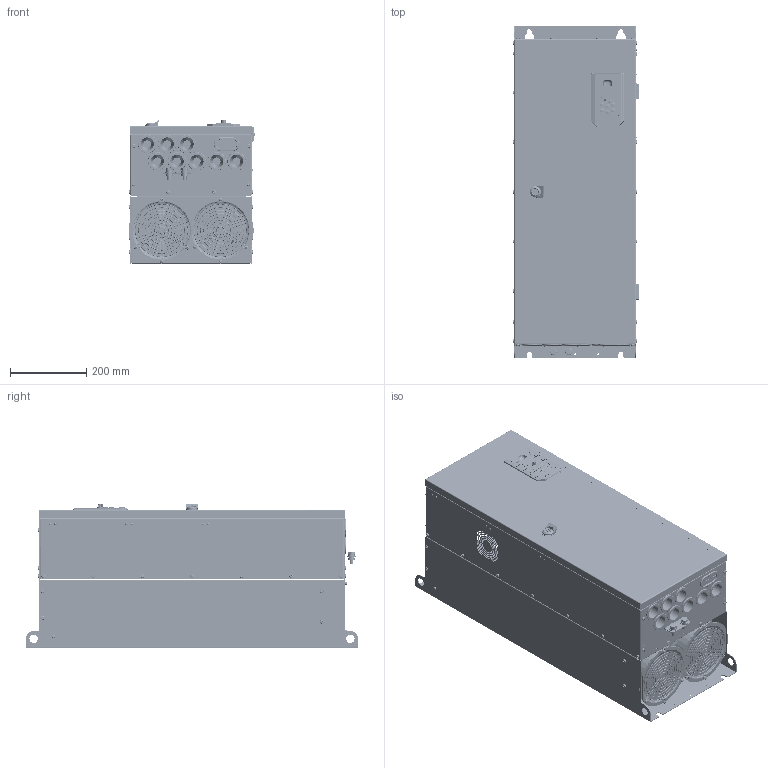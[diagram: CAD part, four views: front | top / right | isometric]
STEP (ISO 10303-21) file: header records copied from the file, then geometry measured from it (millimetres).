
FILE_DESCRIPTION((''),'2;1');
FILE_NAME('AD800-D7-DRIVE_ASM','2025-06-25T11:43:27',('wendong.luo'),(''),'CREO PARAMETRIC BY PTC INC, 2024374','CREO PARAMETRIC BY PTC INC, 2024374','');
FILE_SCHEMA(('CONFIG_CONTROL_DESIGN','GEOMETRIC_VALIDATION_PROPERTIES_MIM'));
Products named in the file (76): D7-MECHANICAL-PART; M0202034; RIVETING-NUT-4_; P_FHS_5_12_; M0202002; M3-SPRING_FLAT; M3-WASHER; M0202002_ASM; M0202007; M0100015; M0202003; M10-25; M10-SPRING_FLAT; M10-WASHER; M0202036_ASM; M12-25; M12-SPRING_FLAT; M12-WASHER; M0202037_ASM; M0202010; M0202040; M0202014; P_FHS_5_10; P_FHS_8_15; D7-FASTEN_ASM; M0204012; M0204033; E0400077; M0204014; PRT0001_7; 17251-5YE-2B_1; 17251_ASM_ASM; M0200005; M0104030; D7-PU_ASM; M0104033; E0100084; E0400023; E0400008; E0400009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
Assembly tree (226 placements, depth 5):
  AD800-D7-DRIVE_ASM
    D7-PU_ASM
      D7-MECHANICAL-PART
      D7-FASTEN_ASM
        M0202034  x36
        RIVETING-NUT-4_  x10
        P_FHS_5_12_  x6
        M0202002_ASM  x2
          M0202002
          M3-SPRING_FLAT
          M3-WASHER
        M0202007  x31
        M0100015  x2
        M0202003  x6
        M0202036_ASM  x10
          M10-25
          M10-SPRING_FLAT
          M10-WASHER
        M0202037_ASM  x3
          M12-25
          M12-SPRING_FLAT
          M12-WASHER
        M0202010  x6
        M0202040  x8
        M0202014
        P_FHS_5_10  x14
        P_FHS_8_15  x4
      M0204012  x8
      M0204033
      E0400077  x3
      M0204014
      17251_ASM_ASM  x2
        PRT0001_7
        17251-5YE-2B_1
      M0200005  x2
      M0104030
    CU_NEW_ASM
      M0104033
      E0100084_ASM
        E0100084
        E0400023
        E0400008
        E0400009  x2
        E0400001
        E0400011
      M0203006
      M0203025
      M0203032_00
    D7-DOOR-ASM_ASM
      M0100062_ASM
        M0100062
        M0100059
        LOCATING-PIN-4_  x2
        EM-S-M5-ZC  x4
      M0104027
      EXTERNAL_KEYPAD_ASM
        M0104016
        M0104018
        E0100102_ASM
          E0100102
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Bounding box: 332.5 x 870 x 379 mm (x, y, z)
Volume: 4579341.8 mm3; surface area: 4666669.9 mm2
Topology: 389 solids, 504 shells, 37060 faces, 97589 edges, 62824 vertices
Faces by surface type: plane 17683, cylinder 8215, extrusion 4164, bspline 4118, cone 1338, torus 1292, sphere 250
Entity records: 887213 total; most frequent: CARTESIAN_POINT 241479, ORIENTED_EDGE 108694, DIRECTION 85530, EDGE_CURVE 54528, PRESENTATION_STYLE_ASSIGNMENT 43022, STYLED_ITEM 41245, CURVE_STYLE 39619, VECTOR 37012
